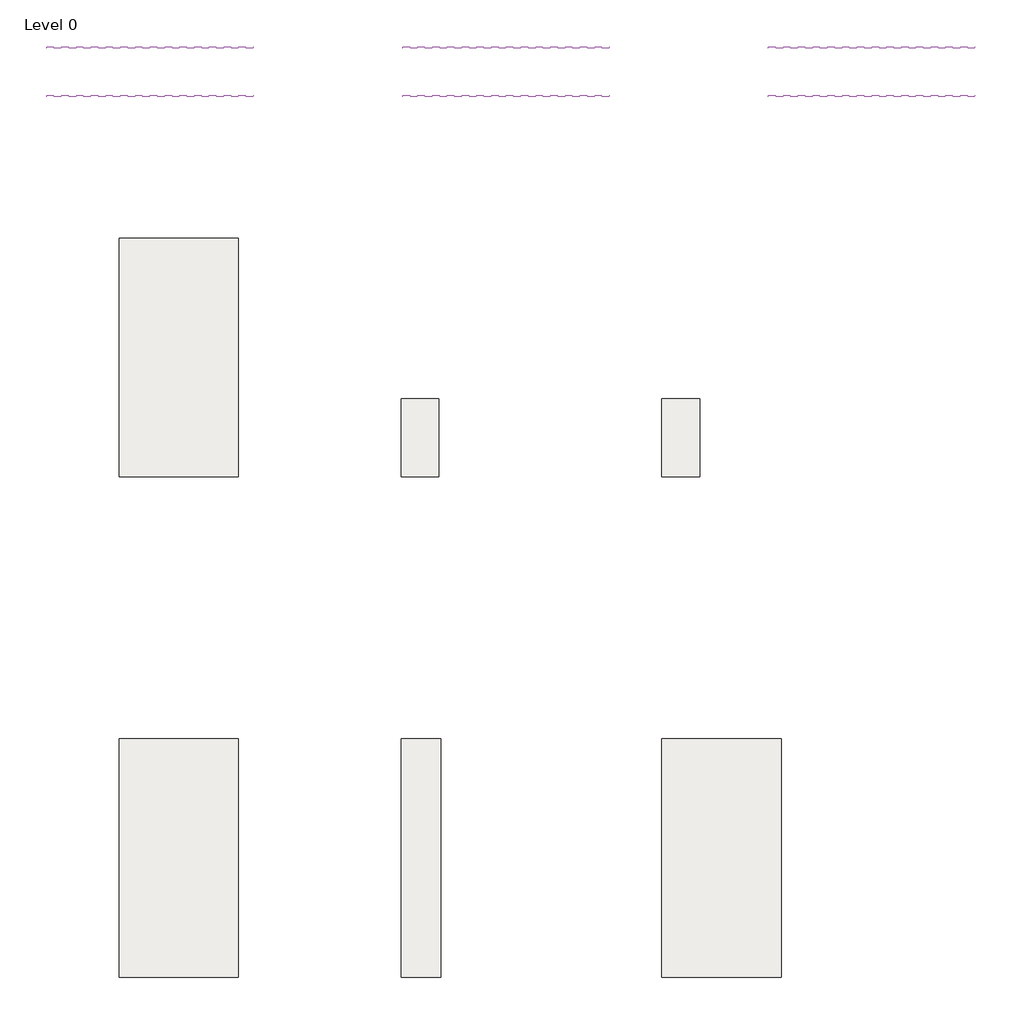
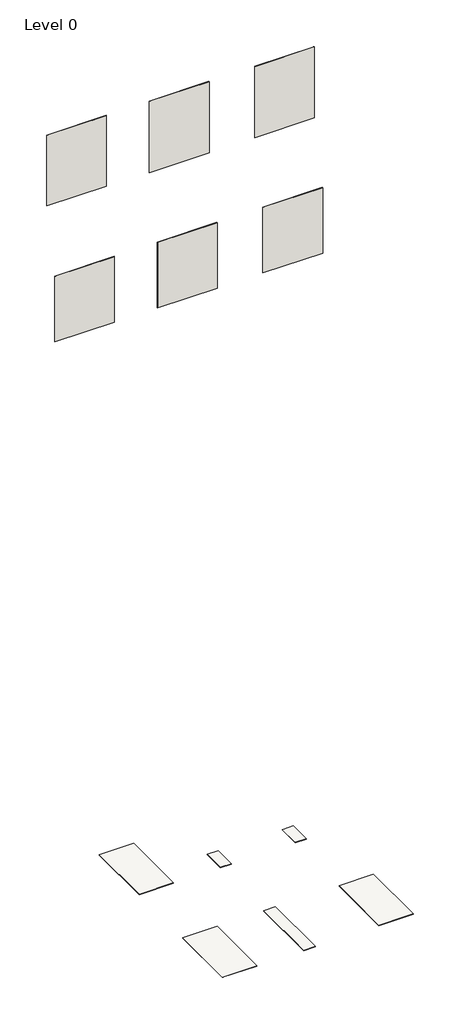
# One storey: 6 slabs, 6 walls.
"""IFC4 building model written with IfcOpenShell, lengths in millimetres."""

from ifc_helpers import new_model, si_unit, frame, origin, place, context, project, spatial, polyline, outline, extrude, element, save

model = new_model("IFC4")

# Units and contexts
model_context = context("Model", 3, world=origin())
ifc_project = project(units=[si_unit("LENGTHUNIT", "METRE", prefix="MILLI")], contexts=[model_context])

# Site, building, storey
site = spatial("IfcSite", under=ifc_project)
building = spatial("IfcBuilding", under=site)
storey = spatial("IfcBuildingStorey", under=building, Name="Level 0", Elevation=0.0)

# Slabs
placement = place(None, origin())
element("IfcSlab", 1, ObjectType="Floor_Tiles_Refin-Canal Grande-Rubino-75x150_OU37", at=placement, inside=storey, context=model_context, shape_type="SweptSolid", body=[
    extrude(outline(polyline([(7124.3752062, 6939.4623743), (7124.3752062, 5439.4623743), (6374.3752062, 5439.4623743), (6374.3752062, 6939.4623743), (7124.3752062, 6939.4623743)])), frame((0.0, 0.0, -10.0), z_axis=(0.0, 0.0, 1.0), x_axis=(1.0, 0.0, 0.0)), (0.0, 0.0, 1.0), 10.0),
])
element("IfcSlab", 2, ObjectType="Floor_Tiles_Refin-Canal Grande-Rubino-23.8x49.2_OV33", at=placement, inside=storey, context=model_context, shape_type="SweptSolid", body=[
    extrude(outline(polyline([(8385.3924055, 5930.4192064), (8385.3924055, 5438.4192064), (8147.3924055, 5438.4192064), (8147.3924055, 5930.4192064), (8385.3924055, 5930.4192064)])), frame((0.0, 0.0, -10.0), z_axis=(0.0, 0.0, 1.0), x_axis=(1.0, 0.0, 0.0)), (0.0, 0.0, 1.0), 10.0),
])
element("IfcSlab", 3, ObjectType="Floor_Tiles_Refin-Canal Grande-Rubino-23.8x49.2_OU05", at=placement, inside=storey, context=model_context, shape_type="SweptSolid", body=[
    extrude(outline(polyline([(10025.3924055, 5930.4192064), (10025.3924055, 5438.4192064), (9787.3924055, 5438.4192064), (9787.3924055, 5930.4192064), (10025.3924055, 5930.4192064)])), frame((0.0, 0.0, -10.0), z_axis=(0.0, 0.0, 1.0), x_axis=(1.0, 0.0, 0.0)), (0.0, 0.0, 1.0), 10.0),
])
element("IfcSlab", 4, ObjectType="Floor_Tiles_Refin-Canal Grande-Rubino-75x150_OR39", at=placement, inside=storey, context=model_context, shape_type="SweptSolid", body=[
    extrude(outline(polyline([(7124.3752062, 3789.4623743), (7124.3752062, 2289.4623743), (6374.3752062, 2289.4623743), (6374.3752062, 3789.4623743), (7124.3752062, 3789.4623743)])), frame((0.0, 0.0, -10.0), z_axis=(0.0, 0.0, 1.0), x_axis=(1.0, 0.0, 0.0)), (0.0, 0.0, 1.0), 10.0),
])
element("IfcSlab", 5, ObjectType="Floor_Tiles_Refin-Canal Grande-Rubino-75x150_OS95", at=placement, inside=storey, context=model_context, shape_type="SweptSolid", body=[
    extrude(outline(polyline([(10537.3924055, 3789.4623743), (10537.3924055, 2289.4623743), (9787.3924055, 2289.4623743), (9787.3924055, 3789.4623743), (10537.3924055, 3789.4623743)])), frame((0.0, 0.0, -10.0), z_axis=(0.0, 0.0, 1.0), x_axis=(1.0, 0.0, 0.0)), (0.0, 0.0, 1.0), 10.0),
])
element("IfcSlab", 6, ObjectType="Floor_Tiles_Refin-Canal Grande-Rubino-25x150_OS98", at=placement, inside=storey, context=model_context, shape_type="SweptSolid", body=[
    extrude(outline(polyline([(8397.3924055, 3789.4623743), (8397.3924055, 2289.4623743), (8147.3924055, 2289.4623743), (8147.3924055, 3789.4623743), (8397.3924055, 3789.4623743)])), frame((0.0, 0.0, -10.0), z_axis=(0.0, 0.0, 1.0), x_axis=(1.0, 0.0, 0.0)), (0.0, 0.0, 1.0), 10.0),
])

# Walls
element("IfcWall", 7, ObjectType="Wall_Tiles_Refin-Canal Grande-Rubino-23.8x49.2_OV33", at=placement, inside=storey, context=model_context, shape_type="SweptSolid", body=[
    extrude(outline(polyline([(9457.3752062, 8132.3838631), (8157.3752062, 8132.3838631), (8157.3752062, 8142.3838631), (9457.3752062, 8142.3838631), (9457.3752062, 8132.3838631)])), frame((0.0, 0.0, 14387.6770443), z_axis=(0.0, 0.0, 1.0), x_axis=(1.0, 0.0, 0.0)), (0.0, 0.0, 1.0), 1641.7417352),
])
element("IfcWall", 8, ObjectType="Wall_Tiles_Refin-Canal Grande-Rubino-23.8x49.2_OU05", at=placement, inside=storey, context=model_context, shape_type="SweptSolid", body=[
    extrude(outline(polyline([(11757.3752062, 8132.3838631), (10457.3752062, 8132.3838631), (10457.3752062, 8142.3838631), (11757.3752062, 8142.3838631), (11757.3752062, 8132.3838631)])), frame((0.0, 0.0, 14387.6770443), z_axis=(0.0, 0.0, 1.0), x_axis=(1.0, 0.0, 0.0)), (0.0, 0.0, 1.0), 1641.7417352),
])
element("IfcWall", 9, ObjectType="Wall_Tiles_Refin-Canal Grande-Rubino-75x150_OU37", at=placement, inside=storey, context=model_context, shape_type="SweptSolid", body=[
    extrude(outline(polyline([(7217.3752062, 8132.3838631), (5917.3752062, 8132.3838631), (5917.3752062, 8142.3838631), (7217.3752062, 8142.3838631), (7217.3752062, 8132.3838631)])), frame((0.0, 0.0, 14403.7267346), z_axis=(0.0, 0.0, 1.0), x_axis=(1.0, 0.0, 0.0)), (0.0, 0.0, 1.0), 1625.692045),
])
element("IfcWall", 10, ObjectType="Wall_Tiles_Refin-Canal Grande-Rubino-75x150_OR39", at=placement, inside=storey, context=model_context, shape_type="SweptSolid", body=[
    extrude(outline(polyline([(7217.3752062, 7827.3838631), (5917.3752062, 7827.3838631), (5917.3752062, 7837.3838631), (7217.3752062, 7837.3838631), (7217.3752062, 7827.3838631)])), frame((0.0, 0.0, 11452.5436262), z_axis=(0.0, 0.0, 1.0), x_axis=(1.0, 0.0, 0.0)), (0.0, 0.0, 1.0), 1513.1985566),
])
element("IfcWall", 11, ObjectType="Wall_Tiles_Refin-Canal Grande-Rubino-75x150_OS95", at=placement, inside=storey, context=model_context, shape_type="SweptSolid", body=[
    extrude(outline(polyline([(11757.3752062, 7827.3838631), (10457.3752062, 7827.3838631), (10457.3752062, 7837.3838631), (11757.3752062, 7837.3838631), (11757.3752062, 7827.3838631)])), frame((0.0, 0.0, 11452.5436262), z_axis=(0.0, 0.0, 1.0), x_axis=(1.0, 0.0, 0.0)), (0.0, 0.0, 1.0), 1513.1985566),
])
element("IfcWall", 12, ObjectType="Wall_Tiles_Refin-Canal Grande-Rubino-25x150_OS98", at=placement, inside=storey, context=model_context, shape_type="SweptSolid", body=[
    extrude(outline(polyline([(9457.3752062, 7827.3838631), (8157.3752062, 7827.3838631), (8157.3752062, 7837.3838631), (9457.3752062, 7837.3838631), (9457.3752062, 7827.3838631)])), frame((0.0, 0.0, 11452.5436262), z_axis=(0.0, 0.0, 1.0), x_axis=(1.0, 0.0, 0.0)), (0.0, 0.0, 1.0), 1513.1985566),
])

save(model, "model.ifc")
